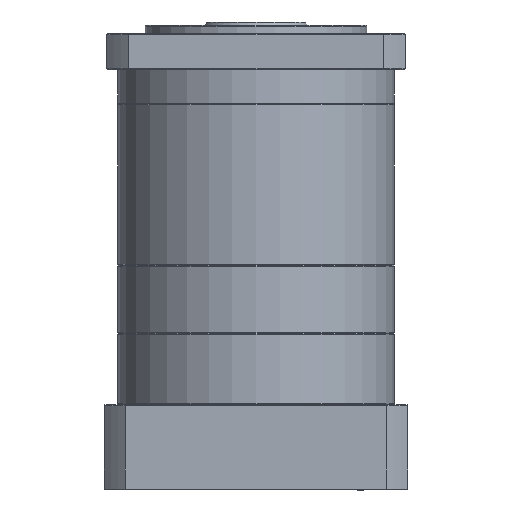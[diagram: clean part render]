
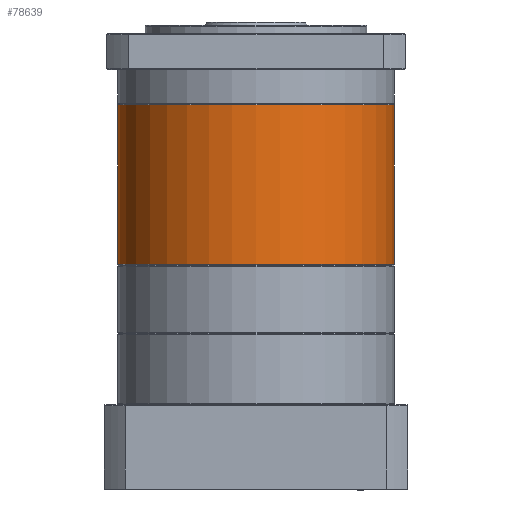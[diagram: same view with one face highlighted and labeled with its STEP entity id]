
A CAD part, front view. The second image highlights one B-rep face of the part: STEP entity #78639.
In plain terms, the highlighted cylindrical face has radius 81 mm (diameter 162 mm), a partial arc.
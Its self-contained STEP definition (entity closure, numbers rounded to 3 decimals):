
#559 = EDGE_LOOP ( 'NONE', ( #6420, #9844, #85730, #959 ) ) ;
#959 = ORIENTED_EDGE ( 'NONE', *, *, #30332, .T. ) ;
#5389 = VERTEX_POINT ( 'NONE', #54242 ) ;
#6420 = ORIENTED_EDGE ( 'NONE', *, *, #38540, .F. ) ;
#6845 = CARTESIAN_POINT ( 'NONE',  ( 175.484, 78.843, 85.418 ) ) ;
#9844 = ORIENTED_EDGE ( 'NONE', *, *, #36899, .T. ) ;
#13300 = FACE_OUTER_BOUND ( 'NONE', #559, .T. ) ;
#13443 = CARTESIAN_POINT ( 'NONE',  ( 94.484, 78.843, 84.918 ) ) ;
#20321 = DIRECTION ( 'NONE',  ( 0., 0., 1. ) ) ;
#21265 = DIRECTION ( 'NONE',  ( 0., 0., 1. ) ) ;
#23201 = CARTESIAN_POINT ( 'NONE',  ( 175.484, 78.843, 178.918 ) ) ;
#28155 = VECTOR ( 'NONE', #76858, 1000. ) ;
#29560 = VERTEX_POINT ( 'NONE', #58692 ) ;
#30332 = EDGE_CURVE ( 'NONE', #5389, #41755, #71770, .T. ) ;
#36899 = EDGE_CURVE ( 'NONE', #51131, #29560, #47657, .T. ) ;
#38540 = EDGE_CURVE ( 'NONE', #51131, #41755, #95610, .T. ) ;
#41755 = VERTEX_POINT ( 'NONE', #91027 ) ;
#46904 = DIRECTION ( 'NONE',  ( 0., 0., -1. ) ) ;
#47261 = AXIS2_PLACEMENT_3D ( 'NONE', #23201, #46904, #100729 ) ;
#47657 = CIRCLE ( 'NONE', #84570, 81. ) ;
#51131 = VERTEX_POINT ( 'NONE', #66456 ) ;
#53396 = EDGE_CURVE ( 'NONE', #29560, #5389, #68348, .T. ) ;
#54242 = CARTESIAN_POINT ( 'NONE',  ( 256.484, 78.843, 178.918 ) ) ;
#54289 = DIRECTION ( 'NONE',  ( 0., 0., 1. ) ) ;
#57753 = VECTOR ( 'NONE', #21265, 1000. ) ;
#58692 = CARTESIAN_POINT ( 'NONE',  ( 256.484, 78.843, 85.418 ) ) ;
#61522 = CARTESIAN_POINT ( 'NONE',  ( 256.484, 78.843, 84.918 ) ) ;
#66456 = CARTESIAN_POINT ( 'NONE',  ( 94.484, 78.843, 85.418 ) ) ;
#66567 = CARTESIAN_POINT ( 'NONE',  ( 175.484, 78.843, 84.918 ) ) ;
#68348 = LINE ( 'NONE', #61522, #28155 ) ;
#71770 = CIRCLE ( 'NONE', #47261, 81. ) ;
#76524 = CYLINDRICAL_SURFACE ( 'NONE', #96609, 81. ) ;
#76858 = DIRECTION ( 'NONE',  ( 0., 0., 1. ) ) ;
#78639 = ADVANCED_FACE ( 'NONE', ( #13300 ), #76524, .T. ) ;
#84570 = AXIS2_PLACEMENT_3D ( 'NONE', #6845, #54289, #100658 ) ;
#85730 = ORIENTED_EDGE ( 'NONE', *, *, #53396, .T. ) ;
#90715 = DIRECTION ( 'NONE',  ( 1., 0., 0. ) ) ;
#91027 = CARTESIAN_POINT ( 'NONE',  ( 94.484, 78.843, 178.918 ) ) ;
#95610 = LINE ( 'NONE', #13443, #57753 ) ;
#96609 = AXIS2_PLACEMENT_3D ( 'NONE', #66567, #20321, #90715 ) ;
#100658 = DIRECTION ( 'NONE',  ( 1., 0., 0. ) ) ;
#100729 = DIRECTION ( 'NONE',  ( 1., 0., 0. ) ) ;
